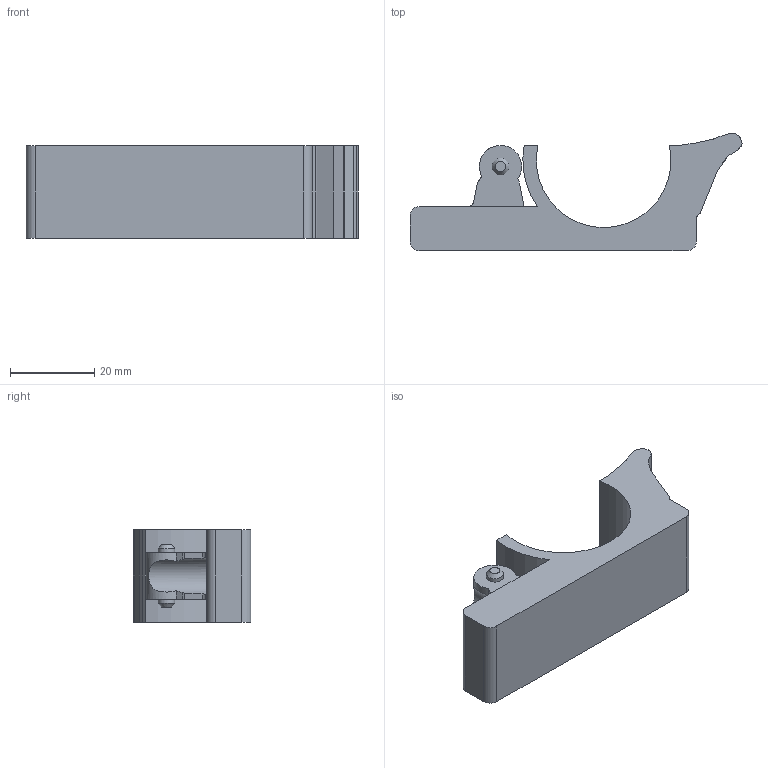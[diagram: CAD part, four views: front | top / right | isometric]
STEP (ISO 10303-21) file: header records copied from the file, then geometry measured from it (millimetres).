
FILE_DESCRIPTION(('Open CASCADE Model'),'2;1');
FILE_NAME('Open CASCADE Shape Model','2026-11-18T22:15:56',('Author'),( 'Open CASCADE'),'Open CASCADE STEP processor 7.8','Open CASCADE 7.8' ,'Unknown');
FILE_SCHEMA(('AUTOMOTIVE_DESIGN { 1 0 10303 214 1 1 1 1 }'));
Length unit declared in the file: millimetre
Products named in the file (1): Open CASCADE STEP translator 7.8 2
Bounding box: 78.85 x 27.91 x 22 mm (x, y, z)
Volume: 20675 mm3; surface area: 7483.4 mm2
Topology: 1 solids, 1 shells, 63 faces, 167 edges, 110 vertices
Faces by surface type: plane 34, cylinder 27, cone 2
Full cylindrical faces by diameter (mm): 4 x2, 4.2 x1, 8.6 x1
Entity records: 4589 total; most frequent: CARTESIAN_POINT 1265, DIRECTION 621, LINE 340, VECTOR 340, ORIENTED_EDGE 334, PCURVE 334, DEFINITIONAL_REPRESENTATION 334, EDGE_CURVE 167
